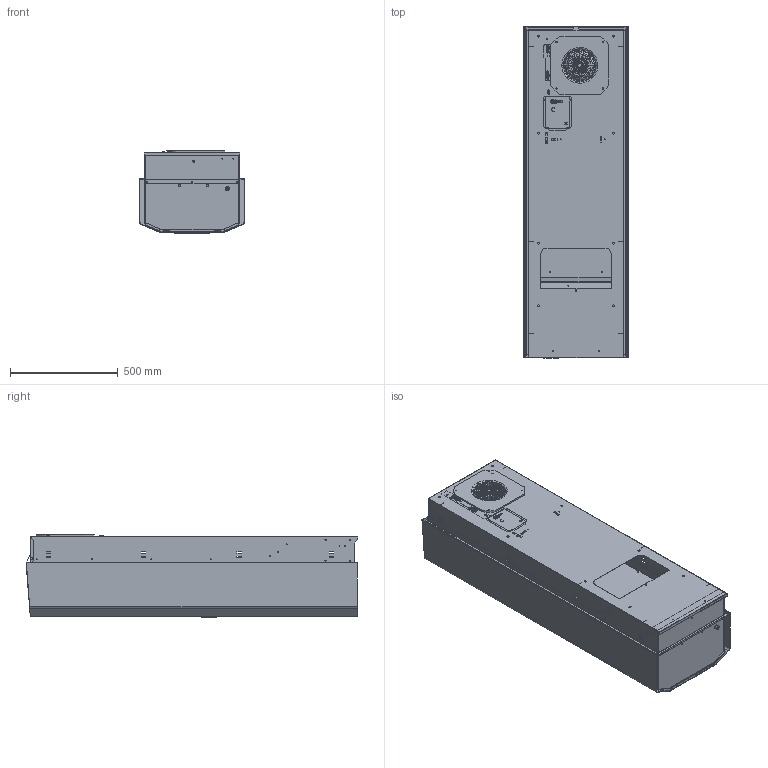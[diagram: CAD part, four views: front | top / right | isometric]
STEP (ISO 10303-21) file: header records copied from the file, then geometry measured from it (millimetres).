
FILE_DESCRIPTION (( 'STEP AP203' ), '1' );
FILE_NAME ('30390-970.STEP', '2019-12-20T07:44:51', ( '' ), ( '' ), 'SwSTEP 2.0', 'SolidWorks 2018', '' );
FILE_SCHEMA (( 'CONFIG_CONTROL_DESIGN' ));
Products named in the file (1): 30390-970
Bounding box: 485 x 1539.37 x 383.88 mm (x, y, z)
Surface area: 6986860.2 mm2 (no closed solid volume)
Topology: 0 solids, 62 shells, 3085 faces, 12279 edges, 8683 vertices
Faces by surface type: plane 2117, cylinder 797, bspline 150, cone 21
Full cylindrical faces by diameter (mm): 0.6 x9, 0.8 x9, 1 x9, 2.2 x1, 2.228 x1, 2.3 x3, 2.311 x1, 2.4 x1, 2.845 x4, 3.5 x1, 4.081 x1, 4.5 x18, 4.6 x2, 5 x8, 5.2 x4, 6.3 x1, 7.12 x1, 8 x3, 9 x1, 10 x2, 11 x1, 12 x1, 18 x1, 72 x1
Entity records: 274153 total; most frequent: CARTESIAN_POINT 177043, ORIENTED_EDGE 19943, DIRECTION 16606, EDGE_CURVE 12139, VERTEX_POINT 8657, VECTOR 7882, LINE 7882, EDGE_LOOP 4572
